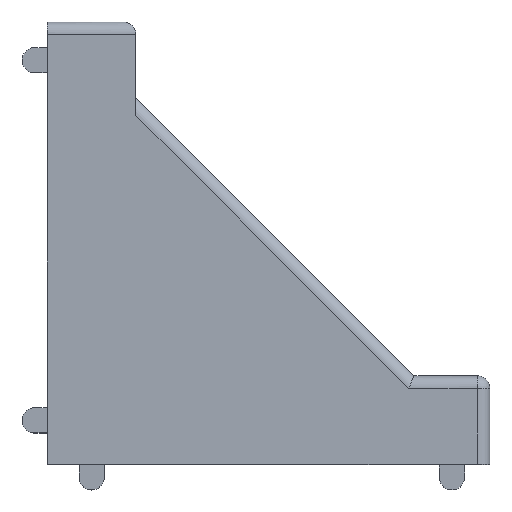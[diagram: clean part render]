
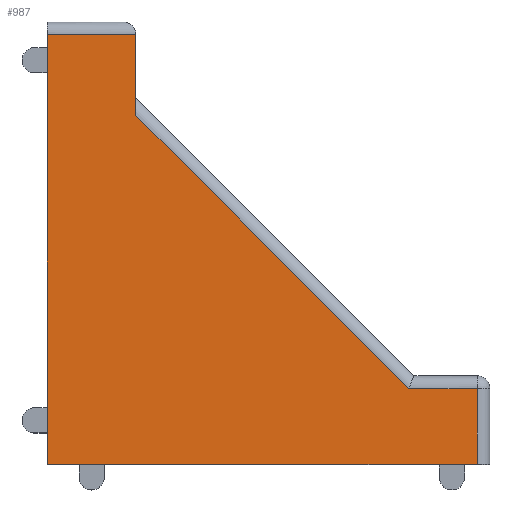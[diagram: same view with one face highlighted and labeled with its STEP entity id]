
A CAD part, top view. The second image highlights one B-rep face of the part: STEP entity #987.
In plain terms, the highlighted planar face has unit normal (0, 0, 1).
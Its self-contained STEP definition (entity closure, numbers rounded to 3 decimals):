
#18 = ORIENTED_EDGE ( 'NONE', *, *, #2424, .T. ) ;
#66 = CARTESIAN_POINT ( 'NONE',  ( -60.278, -57.484, 28.5 ) ) ;
#83 = LINE ( 'NONE', #2539, #543 ) ;
#107 = CARTESIAN_POINT ( 'NONE',  ( -31.692, -51.484, 28.5 ) ) ;
#115 = EDGE_CURVE ( 'NONE', #2632, #3049, #458, .T. ) ;
#149 = CARTESIAN_POINT ( 'NONE',  ( -26.278, -51.484, 28.5 ) ) ;
#151 = CARTESIAN_POINT ( 'NONE',  ( -26.278, -50.484, 28.5 ) ) ;
#234 = VERTEX_POINT ( 'NONE', #107 ) ;
#355 = DIRECTION ( 'NONE',  ( 0., 1., 0. ) ) ;
#369 = VECTOR ( 'NONE', #1947, 1000. ) ;
#458 = LINE ( 'NONE', #151, #834 ) ;
#482 = ORIENTED_EDGE ( 'NONE', *, *, #1051, .T. ) ;
#543 = VECTOR ( 'NONE', #2213, 1000. ) ;
#604 = ORIENTED_EDGE ( 'NONE', *, *, #2214, .T. ) ;
#611 = DIRECTION ( 'NONE',  ( 1., 0., 0. ) ) ;
#638 = EDGE_CURVE ( 'NONE', #3049, #234, #2585, .T. ) ;
#652 = CARTESIAN_POINT ( 'NONE',  ( -60.278, -23.484, 28.5 ) ) ;
#667 = CARTESIAN_POINT ( 'NONE',  ( -53.278, -22.484, 28.5 ) ) ;
#673 = VERTEX_POINT ( 'NONE', #66 ) ;
#676 = ORIENTED_EDGE ( 'NONE', *, *, #115, .T. ) ;
#781 = EDGE_CURVE ( 'NONE', #2605, #673, #83, .T. ) ;
#795 = CARTESIAN_POINT ( 'NONE',  ( -53.278, -29.898, 28.5 ) ) ;
#834 = VECTOR ( 'NONE', #2908, 1000. ) ;
#914 = DIRECTION ( 'NONE',  ( 0., 0., 1. ) ) ;
#976 = LINE ( 'NONE', #667, #1006 ) ;
#978 = DIRECTION ( 'NONE',  ( -1., 0., 0. ) ) ;
#987 = ADVANCED_FACE ( 'NONE', ( #3071 ), #1547, .T. ) ;
#1006 = VECTOR ( 'NONE', #355, 1000. ) ;
#1024 = VERTEX_POINT ( 'NONE', #1706 ) ;
#1051 = EDGE_CURVE ( 'NONE', #234, #2517, #2523, .T. ) ;
#1171 = EDGE_CURVE ( 'NONE', #673, #2632, #2216, .T. ) ;
#1224 = CARTESIAN_POINT ( 'NONE',  ( -60.278, -57.484, 28.5 ) ) ;
#1261 = DIRECTION ( 'NONE',  ( 1., 0., 0. ) ) ;
#1292 = CARTESIAN_POINT ( 'NONE',  ( -60.278, -23.484, 28.5 ) ) ;
#1433 = CARTESIAN_POINT ( 'NONE',  ( -26.278, -57.484, 28.5 ) ) ;
#1547 = PLANE ( 'NONE',  #3016 ) ;
#1576 = CARTESIAN_POINT ( 'NONE',  ( -60.278, -57.484, 28.5 ) ) ;
#1600 = LINE ( 'NONE', #1292, #2101 ) ;
#1706 = CARTESIAN_POINT ( 'NONE',  ( -53.278, -23.484, 28.5 ) ) ;
#1873 = DIRECTION ( 'NONE',  ( -0.707, 0.707, 0. ) ) ;
#1898 = EDGE_LOOP ( 'NONE', ( #18, #604, #2104, #2569, #676, #2383, #482 ) ) ;
#1947 = DIRECTION ( 'NONE',  ( -1., 0., 0. ) ) ;
#2101 = VECTOR ( 'NONE', #978, 1000. ) ;
#2104 = ORIENTED_EDGE ( 'NONE', *, *, #781, .T. ) ;
#2196 = CARTESIAN_POINT ( 'NONE',  ( -42.985, -40.191, 28.5 ) ) ;
#2211 = VECTOR ( 'NONE', #1261, 1000. ) ;
#2213 = DIRECTION ( 'NONE',  ( 0., -1., 0. ) ) ;
#2214 = EDGE_CURVE ( 'NONE', #1024, #2605, #1600, .T. ) ;
#2216 = LINE ( 'NONE', #1576, #2211 ) ;
#2274 = CARTESIAN_POINT ( 'NONE',  ( -60.278, -51.484, 28.5 ) ) ;
#2383 = ORIENTED_EDGE ( 'NONE', *, *, #638, .T. ) ;
#2424 = EDGE_CURVE ( 'NONE', #2517, #1024, #976, .T. ) ;
#2517 = VERTEX_POINT ( 'NONE', #795 ) ;
#2523 = LINE ( 'NONE', #2196, #2571 ) ;
#2539 = CARTESIAN_POINT ( 'NONE',  ( -60.278, -22.484, 28.5 ) ) ;
#2569 = ORIENTED_EDGE ( 'NONE', *, *, #1171, .T. ) ;
#2571 = VECTOR ( 'NONE', #1873, 1000. ) ;
#2585 = LINE ( 'NONE', #2274, #369 ) ;
#2605 = VERTEX_POINT ( 'NONE', #652 ) ;
#2632 = VERTEX_POINT ( 'NONE', #1433 ) ;
#2908 = DIRECTION ( 'NONE',  ( 0., 1., 0. ) ) ;
#3016 = AXIS2_PLACEMENT_3D ( 'NONE', #1224, #914, #611 ) ;
#3049 = VERTEX_POINT ( 'NONE', #149 ) ;
#3071 = FACE_OUTER_BOUND ( 'NONE', #1898, .T. ) ;
